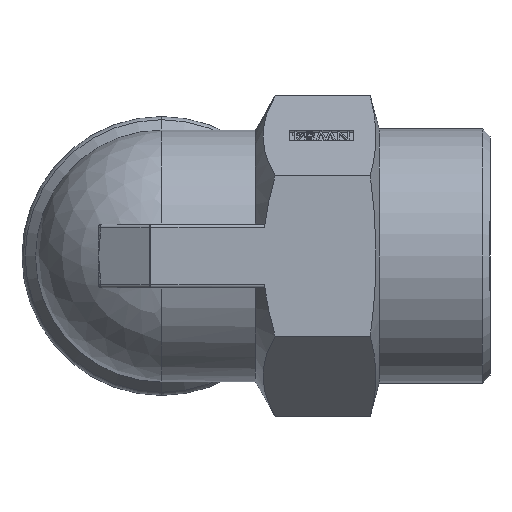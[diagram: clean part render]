
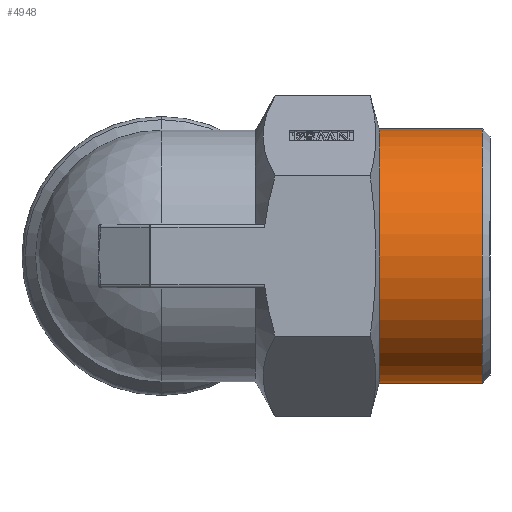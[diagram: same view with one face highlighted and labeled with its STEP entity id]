
A CAD part, left-side view. The second image highlights one B-rep face of the part: STEP entity #4948.
In plain terms, the highlighted cylindrical face has radius 29.8 mm (diameter 59.6 mm), a partial arc.
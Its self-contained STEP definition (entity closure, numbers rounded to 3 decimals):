
#149 = CARTESIAN_POINT ( 'NONE',  ( 0., -75.2, -29.8 ) ) ;
#288 = VECTOR ( 'NONE', #1749, 1000. ) ;
#433 = VERTEX_POINT ( 'NONE', #3223 ) ;
#891 = ORIENTED_EDGE ( 'NONE', *, *, #4126, .T. ) ;
#1137 = LINE ( 'NONE', #3382, #1405 ) ;
#1151 = AXIS2_PLACEMENT_3D ( 'NONE', #1629, #5112, #3811 ) ;
#1169 = CARTESIAN_POINT ( 'NONE',  ( 0., -51., -29.8 ) ) ;
#1173 = EDGE_CURVE ( 'NONE', #433, #2935, #1137, .T. ) ;
#1225 = CARTESIAN_POINT ( 'NONE',  ( 0., -51., 29.8 ) ) ;
#1405 = VECTOR ( 'NONE', #3867, 1000. ) ;
#1629 = CARTESIAN_POINT ( 'NONE',  ( 0., -75.2, 0. ) ) ;
#1749 = DIRECTION ( 'NONE',  ( 0., 1., 0. ) ) ;
#1822 = CARTESIAN_POINT ( 'NONE',  ( 0., -51., 0. ) ) ;
#2312 = AXIS2_PLACEMENT_3D ( 'NONE', #5075, #3366, #2432 ) ;
#2404 = CIRCLE ( 'NONE', #5519, 29.8 ) ;
#2432 = DIRECTION ( 'NONE',  ( 0., 0., 1. ) ) ;
#2694 = EDGE_LOOP ( 'NONE', ( #3170, #5654, #2822, #891 ) ) ;
#2822 = ORIENTED_EDGE ( 'NONE', *, *, #1173, .T. ) ;
#2912 = EDGE_CURVE ( 'NONE', #5360, #433, #4223, .T. ) ;
#2935 = VERTEX_POINT ( 'NONE', #1225 ) ;
#3170 = ORIENTED_EDGE ( 'NONE', *, *, #4645, .F. ) ;
#3223 = CARTESIAN_POINT ( 'NONE',  ( 0., -75.2, 29.8 ) ) ;
#3366 = DIRECTION ( 'NONE',  ( 0., 1., 0. ) ) ;
#3382 = CARTESIAN_POINT ( 'NONE',  ( 0., -77., 29.8 ) ) ;
#3467 = CARTESIAN_POINT ( 'NONE',  ( 0., -77., -29.8 ) ) ;
#3811 = DIRECTION ( 'NONE',  ( 0., 0., -1. ) ) ;
#3867 = DIRECTION ( 'NONE',  ( 0., 1., 0. ) ) ;
#4126 = EDGE_CURVE ( 'NONE', #2935, #4842, #2404, .T. ) ;
#4151 = CYLINDRICAL_SURFACE ( 'NONE', #2312, 29.8 ) ;
#4223 = CIRCLE ( 'NONE', #1151, 29.8 ) ;
#4491 = FACE_OUTER_BOUND ( 'NONE', #2694, .T. ) ;
#4645 = EDGE_CURVE ( 'NONE', #5360, #4842, #5580, .T. ) ;
#4842 = VERTEX_POINT ( 'NONE', #1169 ) ;
#4881 = DIRECTION ( 'NONE',  ( 0., 0., -1. ) ) ;
#4948 = ADVANCED_FACE ( 'NONE', ( #4491 ), #4151, .T. ) ;
#5075 = CARTESIAN_POINT ( 'NONE',  ( 0., -77., 0. ) ) ;
#5112 = DIRECTION ( 'NONE',  ( 0., 1., 0. ) ) ;
#5360 = VERTEX_POINT ( 'NONE', #149 ) ;
#5366 = DIRECTION ( 'NONE',  ( 0., -1., 0. ) ) ;
#5519 = AXIS2_PLACEMENT_3D ( 'NONE', #1822, #5366, #4881 ) ;
#5580 = LINE ( 'NONE', #3467, #288 ) ;
#5654 = ORIENTED_EDGE ( 'NONE', *, *, #2912, .T. ) ;
